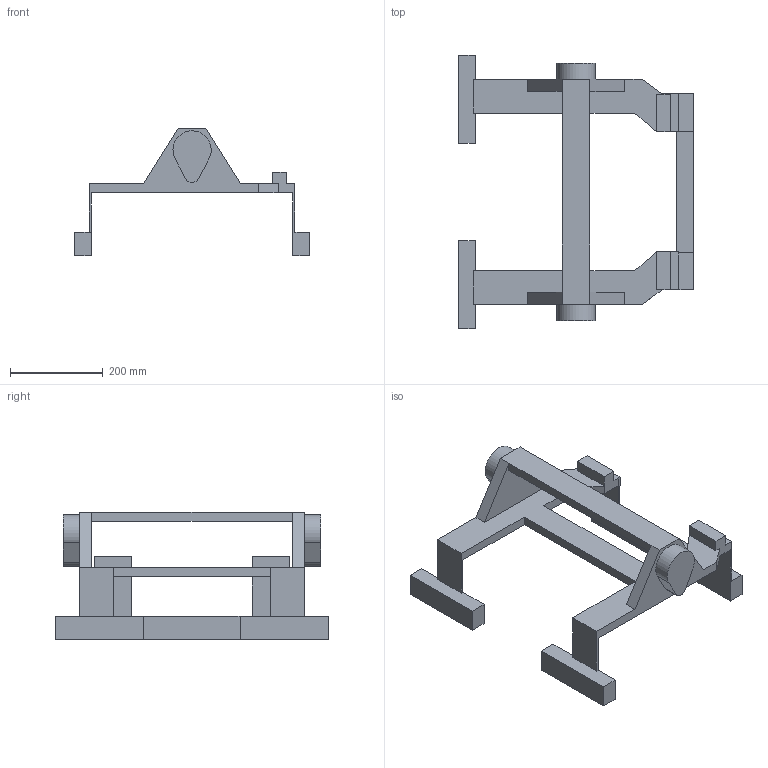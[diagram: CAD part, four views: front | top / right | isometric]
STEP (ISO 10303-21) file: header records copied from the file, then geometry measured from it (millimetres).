
FILE_DESCRIPTION(/* description */ ('Unknown'),/* implementation_level */ '2;1');
FILE_NAME(/* name */ '3D_SVOPATT tilt bracket',/* time_stamp */ '2025-09-11T10:39:12+02:00',/* author */ ('Unknown'),/* organization */ ('Unknown'),/* preprocessor_version */ 'ST-DEVELOPER v20',/* originating_system */ 'Solid Edge',/* authorisation */ 'Unknown');
FILE_SCHEMA (('AUTOMOTIVE_DESIGN {1 0 10303 214 3 1 1}'));
Length unit declared in the file: millimetre
Products named in the file (1): 3D_SVOPATT tilt bracket
Bounding box: 506.92 x 590 x 274.05 mm (x, y, z)
Volume: 5223881.9 mm3; surface area: 599558.9 mm2
Topology: 1 solids, 1 shells, 70 faces, 202 edges, 132 vertices
Faces by surface type: plane 66, cylinder 4
Entity records: 2288 total; most frequent: CARTESIAN_POINT 405, ORIENTED_EDGE 404, DIRECTION 352, EDGE_CURVE 202, LINE 194, VECTOR 194, VERTEX_POINT 132, AXIS2_PLACEMENT_3D 79
